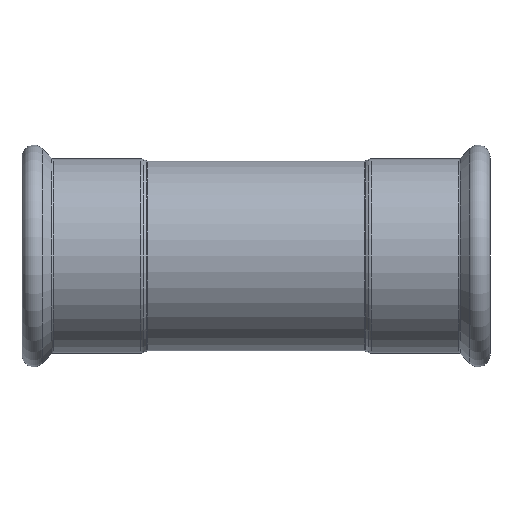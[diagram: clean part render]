
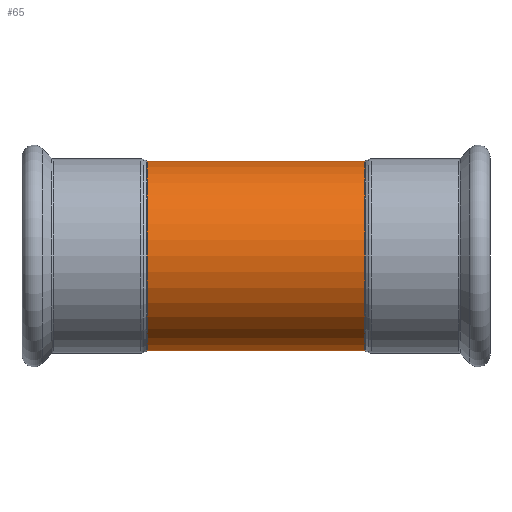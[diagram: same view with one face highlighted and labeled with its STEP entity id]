
A CAD part, front view. The second image highlights one B-rep face of the part: STEP entity #65.
In plain terms, the highlighted cylindrical face has radius 28 mm (diameter 56 mm), a partial arc.
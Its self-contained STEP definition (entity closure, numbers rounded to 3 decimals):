
#65 = ADVANCED_FACE ( 'NONE', ( #2772 ), #1209, .T. ) ;
#167 = CARTESIAN_POINT ( 'NONE',  ( 27.146, 0., -28. ) ) ;
#229 = EDGE_CURVE ( 'NONE', #3881, #3079, #1882, .T. ) ;
#337 = AXIS2_PLACEMENT_3D ( 'NONE', #1513, #3871, #3538 ) ;
#585 = VERTEX_POINT ( 'NONE', #3090 ) ;
#948 = ORIENTED_EDGE ( 'NONE', *, *, #229, .T. ) ;
#1040 = CIRCLE ( 'NONE', #4251, 28. ) ;
#1209 = CYLINDRICAL_SURFACE ( 'NONE', #337, 28. ) ;
#1291 = CARTESIAN_POINT ( 'NONE',  ( 27.146, 0., 28. ) ) ;
#1336 = CARTESIAN_POINT ( 'NONE',  ( -32.06, 0., 0. ) ) ;
#1513 = CARTESIAN_POINT ( 'NONE',  ( 27.146, 0., 0. ) ) ;
#1607 = DIRECTION ( 'NONE',  ( -1., 0., 0. ) ) ;
#1769 = EDGE_CURVE ( 'NONE', #585, #2678, #1979, .T. ) ;
#1882 = LINE ( 'NONE', #1291, #3528 ) ;
#1979 = LINE ( 'NONE', #167, #3119 ) ;
#2314 = ORIENTED_EDGE ( 'NONE', *, *, #4051, .F. ) ;
#2342 = DIRECTION ( 'NONE',  ( 0., 0., 1. ) ) ;
#2496 = CARTESIAN_POINT ( 'NONE',  ( -32.06, 0., -28. ) ) ;
#2524 = ORIENTED_EDGE ( 'NONE', *, *, #1769, .F. ) ;
#2558 = EDGE_CURVE ( 'NONE', #585, #3881, #1040, .T. ) ;
#2678 = VERTEX_POINT ( 'NONE', #2496 ) ;
#2772 = FACE_OUTER_BOUND ( 'NONE', #3278, .T. ) ;
#2805 = CARTESIAN_POINT ( 'NONE',  ( 32.06, 0., 0. ) ) ;
#2939 = CIRCLE ( 'NONE', #3983, 28. ) ;
#3028 = ORIENTED_EDGE ( 'NONE', *, *, #2558, .T. ) ;
#3079 = VERTEX_POINT ( 'NONE', #3503 ) ;
#3090 = CARTESIAN_POINT ( 'NONE',  ( 32.06, 0., -28. ) ) ;
#3119 = VECTOR ( 'NONE', #3922, 1000. ) ;
#3278 = EDGE_LOOP ( 'NONE', ( #2524, #3028, #948, #2314 ) ) ;
#3445 = DIRECTION ( 'NONE',  ( -1., 0., 0. ) ) ;
#3503 = CARTESIAN_POINT ( 'NONE',  ( -32.06, 0., 28. ) ) ;
#3528 = VECTOR ( 'NONE', #3596, 1000. ) ;
#3538 = DIRECTION ( 'NONE',  ( 0., 0., 1. ) ) ;
#3596 = DIRECTION ( 'NONE',  ( -1., 0., 0. ) ) ;
#3768 = DIRECTION ( 'NONE',  ( 0., 0., 1. ) ) ;
#3871 = DIRECTION ( 'NONE',  ( -1., 0., 0. ) ) ;
#3881 = VERTEX_POINT ( 'NONE', #4175 ) ;
#3922 = DIRECTION ( 'NONE',  ( -1., 0., 0. ) ) ;
#3983 = AXIS2_PLACEMENT_3D ( 'NONE', #1336, #1607, #2342 ) ;
#4051 = EDGE_CURVE ( 'NONE', #2678, #3079, #2939, .T. ) ;
#4175 = CARTESIAN_POINT ( 'NONE',  ( 32.06, 0., 28. ) ) ;
#4251 = AXIS2_PLACEMENT_3D ( 'NONE', #2805, #3445, #3768 ) ;
